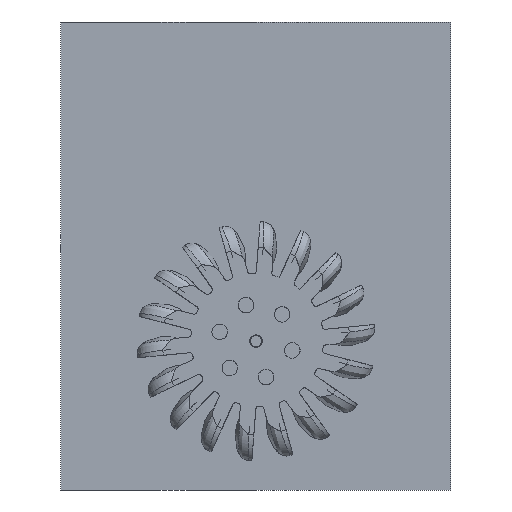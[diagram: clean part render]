
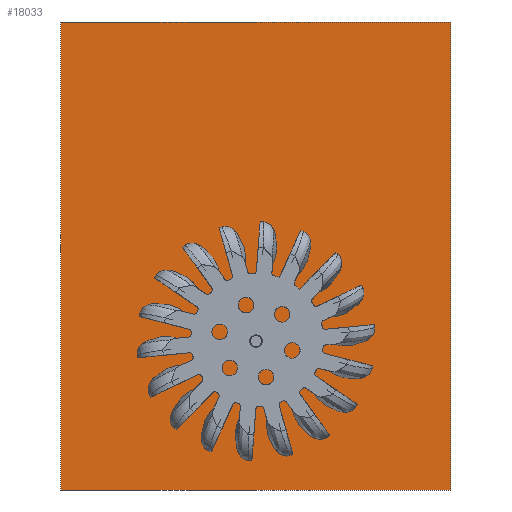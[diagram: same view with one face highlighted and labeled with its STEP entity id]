
A CAD part, front view. The second image highlights one B-rep face of the part: STEP entity #18033.
In plain terms, the highlighted planar face has unit normal (0, -1, 0).
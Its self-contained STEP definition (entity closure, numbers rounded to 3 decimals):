
#1981=FACE_BOUND('',#4611,.T.);
#2902=PLANE('',#19526);
#3473=FACE_OUTER_BOUND('',#4610,.T.);
#4610=EDGE_LOOP('',(#12912,#12913,#12914,#12915));
#4611=EDGE_LOOP('',(#12916));
#5669=LINE('',#25615,#6390);
#5673=LINE('',#25623,#6394);
#5676=LINE('',#25629,#6397);
#5679=LINE('',#25634,#6400);
#6390=VECTOR('',#21272,10.);
#6394=VECTOR('',#21278,10.);
#6397=VECTOR('',#21283,10.);
#6400=VECTOR('',#21288,10.);
#7165=CIRCLE('',#19520,4.5);
#7924=VERTEX_POINT('',#25609);
#7925=VERTEX_POINT('',#25613);
#7926=VERTEX_POINT('',#25614);
#7929=VERTEX_POINT('',#25622);
#7931=VERTEX_POINT('',#25628);
#9782=EDGE_CURVE('',#7924,#7924,#7165,.T.);
#9783=EDGE_CURVE('',#7925,#7926,#5669,.T.);
#9787=EDGE_CURVE('',#7929,#7925,#5673,.T.);
#9790=EDGE_CURVE('',#7931,#7929,#5676,.T.);
#9793=EDGE_CURVE('',#7926,#7931,#5679,.T.);
#12912=ORIENTED_EDGE('',*,*,#9793,.F.);
#12913=ORIENTED_EDGE('',*,*,#9783,.F.);
#12914=ORIENTED_EDGE('',*,*,#9787,.F.);
#12915=ORIENTED_EDGE('',*,*,#9790,.F.);
#12916=ORIENTED_EDGE('',*,*,#9782,.T.);
#18033=ADVANCED_FACE('',(#3473,#1981),#2902,.F.);
#19520=AXIS2_PLACEMENT_3D('',#25611,#21268,#21269);
#19526=AXIS2_PLACEMENT_3D('',#25637,#21292,#21293);
#21268=DIRECTION('center_axis',(0.,1.,0.));
#21269=DIRECTION('ref_axis',(1.,0.,0.));
#21272=DIRECTION('',(0.,0.,1.));
#21278=DIRECTION('',(-1.,0.,0.));
#21283=DIRECTION('',(0.,0.,-1.));
#21288=DIRECTION('',(1.,0.,0.));
#21292=DIRECTION('center_axis',(0.,1.,0.));
#21293=DIRECTION('ref_axis',(0.,0.,1.));
#25609=CARTESIAN_POINT('',(50.086,0.,0.));
#25611=CARTESIAN_POINT('Origin',(54.586,0.,0.));
#25613=CARTESIAN_POINT('',(-150.,0.,-125.));
#25614=CARTESIAN_POINT('',(-150.,0.,125.));
#25615=CARTESIAN_POINT('',(-150.,0.,-125.));
#25622=CARTESIAN_POINT('',(150.,0.,-125.));
#25623=CARTESIAN_POINT('',(150.,0.,-125.));
#25628=CARTESIAN_POINT('',(150.,0.,125.));
#25629=CARTESIAN_POINT('',(150.,0.,125.));
#25634=CARTESIAN_POINT('',(-150.,0.,125.));
#25637=CARTESIAN_POINT('Origin',(0.,0.,0.));
